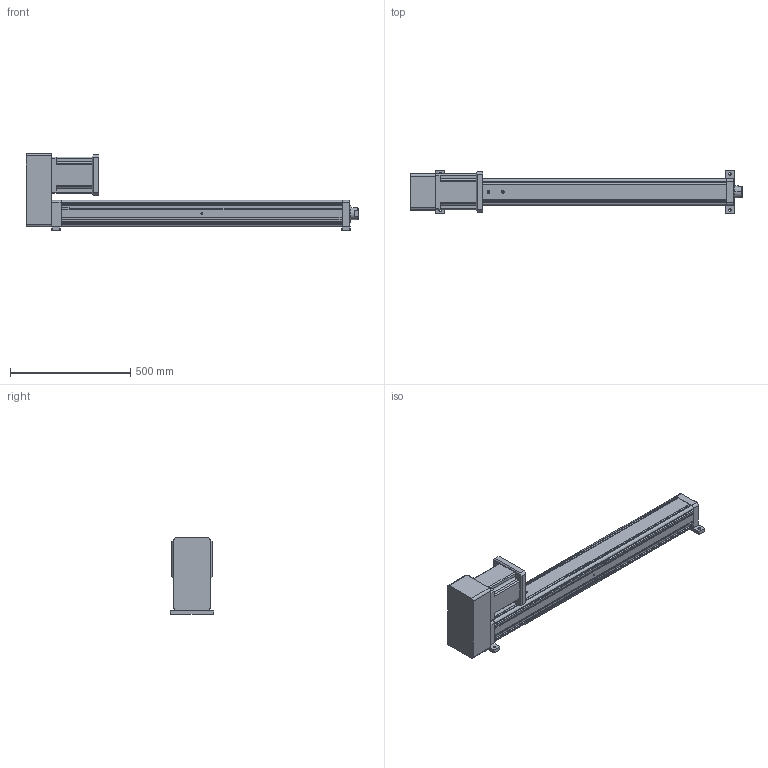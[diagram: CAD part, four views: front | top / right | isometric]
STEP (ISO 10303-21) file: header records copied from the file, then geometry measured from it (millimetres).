
FILE_DESCRIPTION (( 'STEP AP203' ), '1' );
FILE_NAME ('YRJ110-L1000-H2K2.STEP', '2020-01-04T06:13:03', ( 'User' ), ( 'China' ), 'SwSTEP 2.0', 'SolidWorks 2016', '' );
FILE_SCHEMA (( 'CONFIG_CONTROL_DESIGN' ));
Length unit declared in the file: millimetre
Products named in the file (7): H2-110-1; H2-110-2; K2-110; 095-100俴最倰第; 萇儂碟-110; YRJ110-L1000-H2K2; 142熬厒儂
Assembly tree (6 placements, depth 2):
  YRJ110-L1000-H2K2
    095-100俴最倰第
    萇儂碟-110
    142熬厒儂
    H2-110-1
    H2-110-2
    K2-110
Bounding box: 1381 x 180 x 320 mm (x, y, z)
Volume: 14715942.5 mm3; surface area: 1511004.6 mm2
Topology: 6 solids, 6 shells, 320 faces, 882 edges, 569 vertices
Faces by surface type: plane 183, cylinder 110, cone 27
Entity records: 11146 total; most frequent: CARTESIAN_POINT 2104, DIRECTION 1737, ORIENTED_EDGE 1732, EDGE_CURVE 866, LINE 609, VECTOR 609, VERTEX_POINT 569, AXIS2_PLACEMENT_3D 564
